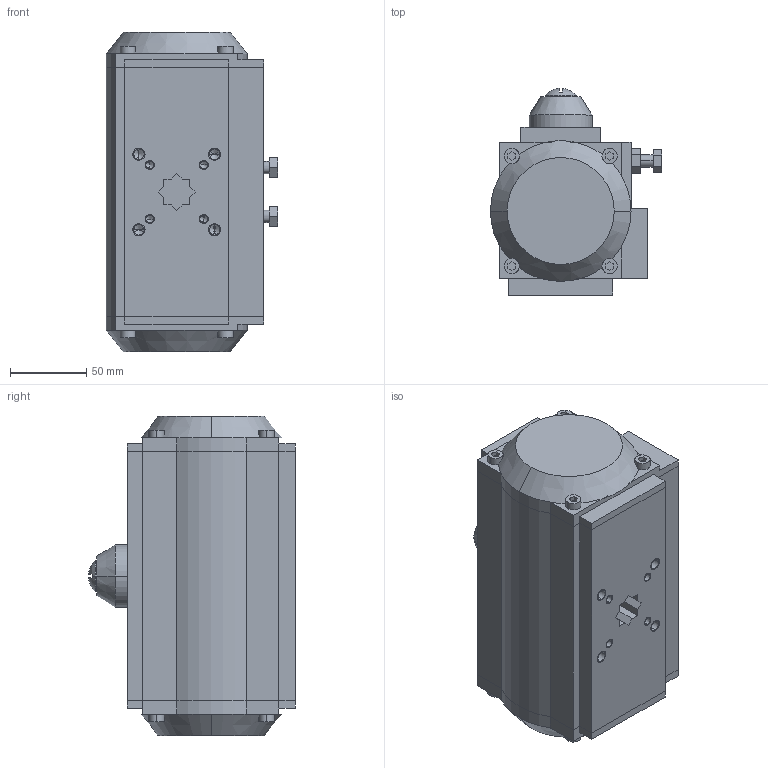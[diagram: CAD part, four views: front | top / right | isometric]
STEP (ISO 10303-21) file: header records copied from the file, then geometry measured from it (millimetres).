
FILE_DESCRIPTION((''),'2;1');
FILE_NAME('SB_PNEVMOPRIVOD_ASM','2024-01-12T',('DIMA'),(''),'PRO/ENGINEER BY PARAMETRIC TECHNOLOGY CORPORATION, 2008020','PRO/ENGINEER BY PARAMETRIC TECHNOLOGY CORPORATION, 2008020','');
FILE_SCHEMA(('CONFIG_CONTROL_DESIGN'));
Length unit declared in the file: millimetre
Products named in the file (7): KORPUS; KOLCO_18_GOST13942; KRISKA_VERX; VINT; KRISKA_LEFT; KRISKA_RIGHT; SB_PNEVMOPRIVOD_ASM
Assembly tree (6 placements, depth 2):
  SB_PNEVMOPRIVOD_ASM
    KORPUS
    KOLCO_18_GOST13942
    KRISKA_VERX
    VINT
    KRISKA_LEFT
    KRISKA_RIGHT
Bounding box: 112 x 135.43 x 209 mm (x, y, z)
Volume: 1873028.3 mm3; surface area: 158383 mm2
Topology: 6 solids, 28 shells, 432 faces, 1116 edges, 719 vertices
Faces by surface type: plane 247, cylinder 137, cone 46, sphere 2
Entity records: 13240 total; most frequent: CARTESIAN_POINT 2444, DIRECTION 2314, ORIENTED_EDGE 2064, EDGE_CURVE 1078, AXIS2_PLACEMENT_3D 811, VERTEX_POINT 719, VECTOR 692, LINE 692
